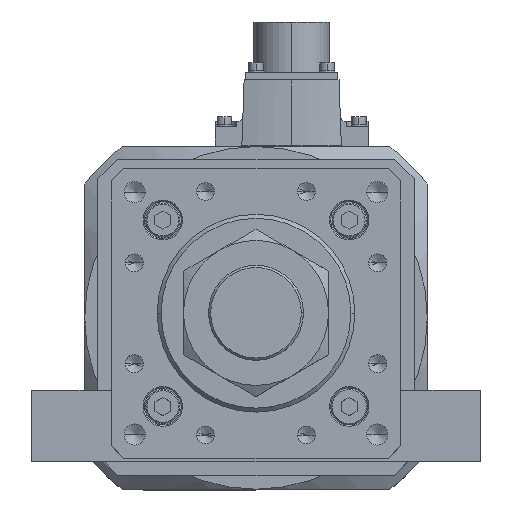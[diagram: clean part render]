
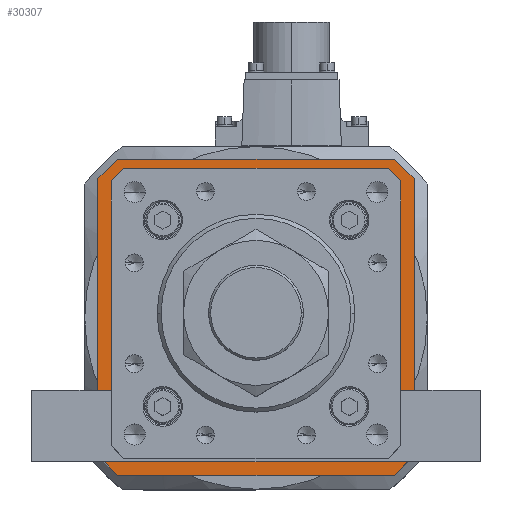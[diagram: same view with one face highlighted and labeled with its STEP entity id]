
A CAD part, top view. The second image highlights one B-rep face of the part: STEP entity #30307.
In plain terms, the highlighted planar face has unit normal (0, 0, 1).
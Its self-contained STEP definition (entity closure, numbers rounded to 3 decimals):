
#685 = EDGE_CURVE ( 'NONE', #23659, #7659, #6157, .T. ) ;
#998 = VECTOR ( 'NONE', #25747, 1000. ) ;
#1305 = VERTEX_POINT ( 'NONE', #34928 ) ;
#1790 = ORIENTED_EDGE ( 'NONE', *, *, #29093, .F. ) ;
#2171 = EDGE_CURVE ( 'NONE', #12051, #1305, #8412, .T. ) ;
#2579 = LINE ( 'NONE', #15779, #12264 ) ;
#2804 = VECTOR ( 'NONE', #23833, 1000. ) ;
#2844 = LINE ( 'NONE', #4930, #998 ) ;
#2874 = ORIENTED_EDGE ( 'NONE', *, *, #33072, .T. ) ;
#2984 = DIRECTION ( 'NONE',  ( 0., 0., 1. ) ) ;
#3034 = CARTESIAN_POINT ( 'NONE',  ( 60., -52.5, -119. ) ) ;
#3514 = CARTESIAN_POINT ( 'NONE',  ( -52.5, 60., -119. ) ) ;
#3610 = EDGE_CURVE ( 'NONE', #31843, #35420, #25284, .T. ) ;
#3694 = CARTESIAN_POINT ( 'NONE',  ( 52.5, 60., -119. ) ) ;
#3731 = LINE ( 'NONE', #3034, #2804 ) ;
#3970 = CARTESIAN_POINT ( 'NONE',  ( 60., -52.5, -119. ) ) ;
#4609 = ORIENTED_EDGE ( 'NONE', *, *, #26791, .F. ) ;
#4780 = DIRECTION ( 'NONE',  ( -1., 0., 0. ) ) ;
#4930 = CARTESIAN_POINT ( 'NONE',  ( -53.5, 49.8, -119. ) ) ;
#5390 = VECTOR ( 'NONE', #33187, 1000. ) ;
#5656 = EDGE_CURVE ( 'NONE', #19665, #36040, #32968, .T. ) ;
#5775 = ORIENTED_EDGE ( 'NONE', *, *, #22887, .T. ) ;
#6157 = LINE ( 'NONE', #20768, #14017 ) ;
#6921 = ORIENTED_EDGE ( 'NONE', *, *, #3610, .T. ) ;
#7220 = EDGE_CURVE ( 'NONE', #18017, #35438, #16204, .T. ) ;
#7289 = VERTEX_POINT ( 'NONE', #16023 ) ;
#7408 = VECTOR ( 'NONE', #27292, 1000. ) ;
#7432 = ORIENTED_EDGE ( 'NONE', *, *, #19596, .T. ) ;
#7659 = VERTEX_POINT ( 'NONE', #20310 ) ;
#7695 = LINE ( 'NONE', #3694, #37322 ) ;
#7716 = CARTESIAN_POINT ( 'NONE',  ( 52.5, -60., -119. ) ) ;
#7794 = VERTEX_POINT ( 'NONE', #3514 ) ;
#8215 = EDGE_CURVE ( 'NONE', #27704, #11028, #30958, .T. ) ;
#8412 = LINE ( 'NONE', #17932, #22333 ) ;
#8853 = CARTESIAN_POINT ( 'NONE',  ( 0., 0., -119. ) ) ;
#9546 = CARTESIAN_POINT ( 'NONE',  ( 52.5, 60., -119. ) ) ;
#10817 = ORIENTED_EDGE ( 'NONE', *, *, #21552, .T. ) ;
#11028 = VERTEX_POINT ( 'NONE', #3970 ) ;
#12051 = VERTEX_POINT ( 'NONE', #29870 ) ;
#12129 = VERTEX_POINT ( 'NONE', #9546 ) ;
#12187 = LINE ( 'NONE', #24462, #27908 ) ;
#12264 = VECTOR ( 'NONE', #21519, 1000. ) ;
#12901 = DIRECTION ( 'NONE',  ( -1., 0., 0. ) ) ;
#13762 = VECTOR ( 'NONE', #13849, 1000. ) ;
#13849 = DIRECTION ( 'NONE',  ( 0.707, 0.707, 0. ) ) ;
#13895 = VECTOR ( 'NONE', #29556, 1000. ) ;
#14017 = VECTOR ( 'NONE', #35363, 1000. ) ;
#14304 = DIRECTION ( 'NONE',  ( 1., 0., 0. ) ) ;
#14965 = CARTESIAN_POINT ( 'NONE',  ( 49.593, -53.5, -119. ) ) ;
#15651 = LINE ( 'NONE', #28598, #13762 ) ;
#15779 = CARTESIAN_POINT ( 'NONE',  ( 49.446, -53.646, -119. ) ) ;
#15973 = ORIENTED_EDGE ( 'NONE', *, *, #2171, .F. ) ;
#15985 = FACE_BOUND ( 'NONE', #20069, .T. ) ;
#15988 = ORIENTED_EDGE ( 'NONE', *, *, #7220, .T. ) ;
#16023 = CARTESIAN_POINT ( 'NONE',  ( 53.5, -49.593, -119. ) ) ;
#16204 = LINE ( 'NONE', #18529, #7408 ) ;
#16221 = CARTESIAN_POINT ( 'NONE',  ( 60., 52.5, -119. ) ) ;
#16288 = VECTOR ( 'NONE', #12901, 1000. ) ;
#16578 = VECTOR ( 'NONE', #28750, 1000. ) ;
#16771 = CARTESIAN_POINT ( 'NONE',  ( -52.5, -60., -119. ) ) ;
#17130 = LINE ( 'NONE', #20406, #13895 ) ;
#17455 = CARTESIAN_POINT ( 'NONE',  ( -52.5, -60., -119. ) ) ;
#17932 = CARTESIAN_POINT ( 'NONE',  ( -60., 52.5, -119. ) ) ;
#18017 = VERTEX_POINT ( 'NONE', #36332 ) ;
#18461 = LINE ( 'NONE', #29896, #24452 ) ;
#18529 = CARTESIAN_POINT ( 'NONE',  ( -53.646, -49.446, -119. ) ) ;
#19505 = DIRECTION ( 'NONE',  ( 0., -1., 0. ) ) ;
#19596 = EDGE_CURVE ( 'NONE', #7289, #26555, #2579, .T. ) ;
#19665 = VERTEX_POINT ( 'NONE', #36578 ) ;
#20069 = EDGE_LOOP ( 'NONE', ( #10817, #29544, #5775, #7432, #2874, #15988, #21752, #6921 ) ) ;
#20310 = CARTESIAN_POINT ( 'NONE',  ( 53.5, 49.593, -119. ) ) ;
#20406 = CARTESIAN_POINT ( 'NONE',  ( 49.8, 53.5, -119. ) ) ;
#20768 = CARTESIAN_POINT ( 'NONE',  ( 53.646, 49.446, -119. ) ) ;
#21113 = FACE_OUTER_BOUND ( 'NONE', #35944, .T. ) ;
#21519 = DIRECTION ( 'NONE',  ( -0.707, -0.707, 0. ) ) ;
#21552 = EDGE_CURVE ( 'NONE', #35420, #23659, #17130, .T. ) ;
#21672 = ORIENTED_EDGE ( 'NONE', *, *, #5656, .F. ) ;
#21752 = ORIENTED_EDGE ( 'NONE', *, *, #34327, .T. ) ;
#22333 = VECTOR ( 'NONE', #35760, 1000. ) ;
#22887 = EDGE_CURVE ( 'NONE', #7659, #7289, #12187, .T. ) ;
#22925 = CARTESIAN_POINT ( 'NONE',  ( -53.5, -49.593, -119. ) ) ;
#22983 = CARTESIAN_POINT ( 'NONE',  ( -53.5, 49.593, -119. ) ) ;
#23315 = ORIENTED_EDGE ( 'NONE', *, *, #25872, .F. ) ;
#23357 = ORIENTED_EDGE ( 'NONE', *, *, #35681, .F. ) ;
#23659 = VERTEX_POINT ( 'NONE', #35084 ) ;
#23751 = VECTOR ( 'NONE', #4780, 1000. ) ;
#23833 = DIRECTION ( 'NONE',  ( -0.707, -0.707, 0. ) ) ;
#24452 = VECTOR ( 'NONE', #26537, 1000. ) ;
#24462 = CARTESIAN_POINT ( 'NONE',  ( 53.5, -49.8, -119. ) ) ;
#25284 = LINE ( 'NONE', #30473, #5390 ) ;
#25747 = DIRECTION ( 'NONE',  ( 0., 1., 0. ) ) ;
#25872 = EDGE_CURVE ( 'NONE', #11028, #19665, #3731, .T. ) ;
#26314 = ORIENTED_EDGE ( 'NONE', *, *, #29499, .F. ) ;
#26345 = PLANE ( 'NONE',  #26925 ) ;
#26537 = DIRECTION ( 'NONE',  ( 0.707, -0.707, 0. ) ) ;
#26555 = VERTEX_POINT ( 'NONE', #14965 ) ;
#26791 = EDGE_CURVE ( 'NONE', #1305, #7794, #15651, .T. ) ;
#26925 = AXIS2_PLACEMENT_3D ( 'NONE', #8853, #2984, #14304 ) ;
#27292 = DIRECTION ( 'NONE',  ( -0.707, 0.707, 0. ) ) ;
#27441 = DIRECTION ( 'NONE',  ( 1., 0., 0. ) ) ;
#27704 = VERTEX_POINT ( 'NONE', #16221 ) ;
#27908 = VECTOR ( 'NONE', #19505, 1000. ) ;
#28465 = CARTESIAN_POINT ( 'NONE',  ( -49.593, 53.5, -119. ) ) ;
#28598 = CARTESIAN_POINT ( 'NONE',  ( -52.5, 60., -119. ) ) ;
#28750 = DIRECTION ( 'NONE',  ( 0., -1., 0. ) ) ;
#29093 = EDGE_CURVE ( 'NONE', #36040, #12051, #37667, .T. ) ;
#29499 = EDGE_CURVE ( 'NONE', #7794, #12129, #7695, .T. ) ;
#29544 = ORIENTED_EDGE ( 'NONE', *, *, #685, .T. ) ;
#29556 = DIRECTION ( 'NONE',  ( 1., 0., 0. ) ) ;
#29870 = CARTESIAN_POINT ( 'NONE',  ( -60., -52.5, -119. ) ) ;
#29896 = CARTESIAN_POINT ( 'NONE',  ( 60., 52.5, -119. ) ) ;
#30307 = ADVANCED_FACE ( 'NONE', ( #15985, #21113 ), #26345, .T. ) ;
#30473 = CARTESIAN_POINT ( 'NONE',  ( -49.446, 53.646, -119. ) ) ;
#30633 = CARTESIAN_POINT ( 'NONE',  ( -49.8, -53.5, -119. ) ) ;
#30958 = LINE ( 'NONE', #31657, #16578 ) ;
#31657 = CARTESIAN_POINT ( 'NONE',  ( 60., 52.5, -119. ) ) ;
#31843 = VERTEX_POINT ( 'NONE', #22983 ) ;
#32114 = VECTOR ( 'NONE', #35304, 1000. ) ;
#32968 = LINE ( 'NONE', #7716, #23751 ) ;
#33072 = EDGE_CURVE ( 'NONE', #26555, #18017, #36655, .T. ) ;
#33187 = DIRECTION ( 'NONE',  ( 0.707, 0.707, 0. ) ) ;
#34327 = EDGE_CURVE ( 'NONE', #35438, #31843, #2844, .T. ) ;
#34928 = CARTESIAN_POINT ( 'NONE',  ( -60., 52.5, -119. ) ) ;
#35084 = CARTESIAN_POINT ( 'NONE',  ( 49.593, 53.5, -119. ) ) ;
#35304 = DIRECTION ( 'NONE',  ( -0.707, 0.707, 0. ) ) ;
#35363 = DIRECTION ( 'NONE',  ( 0.707, -0.707, 0. ) ) ;
#35420 = VERTEX_POINT ( 'NONE', #28465 ) ;
#35438 = VERTEX_POINT ( 'NONE', #22925 ) ;
#35681 = EDGE_CURVE ( 'NONE', #12129, #27704, #18461, .T. ) ;
#35760 = DIRECTION ( 'NONE',  ( 0., 1., 0. ) ) ;
#35944 = EDGE_LOOP ( 'NONE', ( #26314, #4609, #15973, #1790, #21672, #23315, #36337, #23357 ) ) ;
#36040 = VERTEX_POINT ( 'NONE', #16771 ) ;
#36332 = CARTESIAN_POINT ( 'NONE',  ( -49.593, -53.5, -119. ) ) ;
#36337 = ORIENTED_EDGE ( 'NONE', *, *, #8215, .F. ) ;
#36578 = CARTESIAN_POINT ( 'NONE',  ( 52.5, -60., -119. ) ) ;
#36655 = LINE ( 'NONE', #30633, #16288 ) ;
#37322 = VECTOR ( 'NONE', #27441, 1000. ) ;
#37667 = LINE ( 'NONE', #17455, #32114 ) ;
